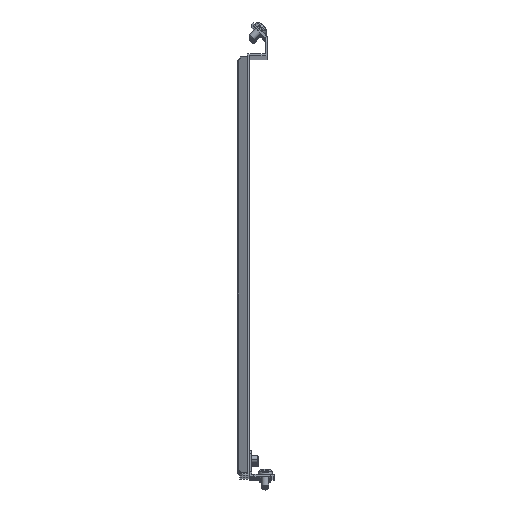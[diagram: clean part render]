
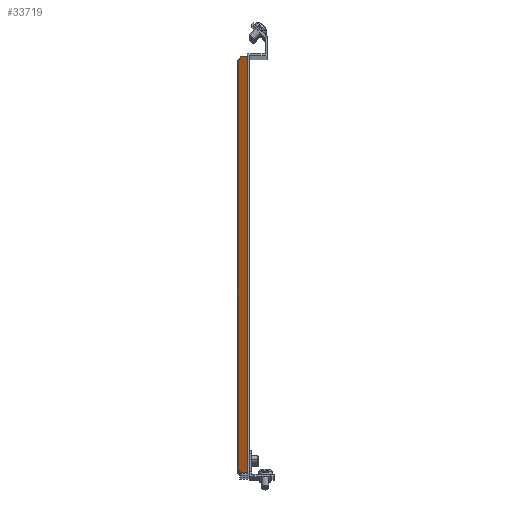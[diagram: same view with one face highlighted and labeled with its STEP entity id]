
A CAD part, top view. The second image highlights one B-rep face of the part: STEP entity #33719.
In plain terms, the highlighted planar face has unit normal (-0.5, 0, 0.866).
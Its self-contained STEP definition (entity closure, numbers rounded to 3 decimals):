
#568 = LINE ( 'NONE', #30996, #32546 ) ;
#857 = DIRECTION ( 'NONE',  ( 0.866, 0., 0.5 ) ) ;
#1041 = LINE ( 'NONE', #17717, #27174 ) ;
#2309 = VECTOR ( 'NONE', #19861, 1000. ) ;
#2643 = VECTOR ( 'NONE', #10023, 1000. ) ;
#3275 = CARTESIAN_POINT ( 'NONE',  ( -5.413, -75.143, 960.089 ) ) ;
#4251 = CARTESIAN_POINT ( 'NONE',  ( -2.25, -75.143, 961.915 ) ) ;
#4524 = VECTOR ( 'NONE', #29589, 1000. ) ;
#4561 = DIRECTION ( 'NONE',  ( 0., 1., 0. ) ) ;
#4727 = ORIENTED_EDGE ( 'NONE', *, *, #7832, .T. ) ;
#5438 = VERTEX_POINT ( 'NONE', #4251 ) ;
#6523 = ORIENTED_EDGE ( 'NONE', *, *, #18608, .F. ) ;
#6964 = VERTEX_POINT ( 'NONE', #14766 ) ;
#7454 = EDGE_LOOP ( 'NONE', ( #4727, #31752, #6523, #31713, #20801, #25841, #13356, #23408 ) ) ;
#7832 = EDGE_CURVE ( 'NONE', #5438, #12048, #11760, .T. ) ;
#8459 = LINE ( 'NONE', #11534, #2309 ) ;
#9531 = DIRECTION ( 'NONE',  ( 0., -1., 0. ) ) ;
#10023 = DIRECTION ( 'NONE',  ( -0.866, 0., -0.5 ) ) ;
#10856 = VERTEX_POINT ( 'NONE', #33423 ) ;
#11069 = CARTESIAN_POINT ( 'NONE',  ( -8.011, 269.647, 958.589 ) ) ;
#11534 = CARTESIAN_POINT ( 'NONE',  ( -0.75, 272.647, 962.781 ) ) ;
#11760 = LINE ( 'NONE', #17180, #24729 ) ;
#11858 = CARTESIAN_POINT ( 'NONE',  ( -5.413, 272.647, 960.089 ) ) ;
#12048 = VERTEX_POINT ( 'NONE', #18485 ) ;
#13356 = ORIENTED_EDGE ( 'NONE', *, *, #25848, .T. ) ;
#14766 = CARTESIAN_POINT ( 'NONE',  ( 0.232, 272.647, 963.348 ) ) ;
#15172 = DIRECTION ( 'NONE',  ( -0.612, -0.707, -0.354 ) ) ;
#16153 = CARTESIAN_POINT ( 'NONE',  ( 0.232, 100., 963.348 ) ) ;
#16450 = EDGE_CURVE ( 'NONE', #5438, #22031, #21433, .T. ) ;
#17180 = CARTESIAN_POINT ( 'NONE',  ( -2.25, -75.143, 961.915 ) ) ;
#17276 = AXIS2_PLACEMENT_3D ( 'NONE', #25829, #34328, #9531 ) ;
#17678 = FACE_OUTER_BOUND ( 'NONE', #7454, .T. ) ;
#17717 = CARTESIAN_POINT ( 'NONE',  ( -8.011, 269.647, 958.589 ) ) ;
#18485 = CARTESIAN_POINT ( 'NONE',  ( 0.232, -75.143, 963.348 ) ) ;
#18557 = LINE ( 'NONE', #27241, #4524 ) ;
#18608 = EDGE_CURVE ( 'NONE', #24772, #6964, #18557, .T. ) ;
#18882 = LINE ( 'NONE', #16153, #19010 ) ;
#19010 = VECTOR ( 'NONE', #4561, 1000. ) ;
#19621 = EDGE_CURVE ( 'NONE', #35356, #24772, #8459, .T. ) ;
#19861 = DIRECTION ( 'NONE',  ( 0.866, 0., 0.5 ) ) ;
#20801 = ORIENTED_EDGE ( 'NONE', *, *, #33191, .T. ) ;
#21433 = LINE ( 'NONE', #24503, #2643 ) ;
#22031 = VERTEX_POINT ( 'NONE', #3275 ) ;
#22129 = EDGE_CURVE ( 'NONE', #10856, #29636, #568, .T. ) ;
#22319 = VECTOR ( 'NONE', #29614, 1000. ) ;
#23408 = ORIENTED_EDGE ( 'NONE', *, *, #16450, .F. ) ;
#24503 = CARTESIAN_POINT ( 'NONE',  ( -8.011, -75.143, 958.589 ) ) ;
#24729 = VECTOR ( 'NONE', #857, 1000. ) ;
#24772 = VERTEX_POINT ( 'NONE', #32307 ) ;
#25829 = CARTESIAN_POINT ( 'NONE',  ( -207.514, 100., 843.406 ) ) ;
#25841 = ORIENTED_EDGE ( 'NONE', *, *, #22129, .F. ) ;
#25848 = EDGE_CURVE ( 'NONE', #10856, #22031, #32150, .T. ) ;
#27174 = VECTOR ( 'NONE', #15172, 1000. ) ;
#27241 = CARTESIAN_POINT ( 'NONE',  ( -207.514, 272.647, 843.406 ) ) ;
#29589 = DIRECTION ( 'NONE',  ( 0.866, 0., 0.5 ) ) ;
#29614 = DIRECTION ( 'NONE',  ( 0.612, -0.707, 0.354 ) ) ;
#29636 = VERTEX_POINT ( 'NONE', #11069 ) ;
#30996 = CARTESIAN_POINT ( 'NONE',  ( -8.011, 272.647, 958.589 ) ) ;
#31713 = ORIENTED_EDGE ( 'NONE', *, *, #19621, .F. ) ;
#31752 = ORIENTED_EDGE ( 'NONE', *, *, #32343, .T. ) ;
#32150 = LINE ( 'NONE', #35063, #22319 ) ;
#32307 = CARTESIAN_POINT ( 'NONE',  ( -2.25, 272.647, 961.915 ) ) ;
#32343 = EDGE_CURVE ( 'NONE', #12048, #6964, #18882, .T. ) ;
#32546 = VECTOR ( 'NONE', #34072, 1000. ) ;
#33191 = EDGE_CURVE ( 'NONE', #35356, #29636, #1041, .T. ) ;
#33423 = CARTESIAN_POINT ( 'NONE',  ( -8.011, -72.143, 958.589 ) ) ;
#33719 = ADVANCED_FACE ( 'NONE', ( #17678 ), #33972, .F. ) ;
#33972 = PLANE ( 'NONE',  #17276 ) ;
#34072 = DIRECTION ( 'NONE',  ( 0., 1., 0. ) ) ;
#34328 = DIRECTION ( 'NONE',  ( 0.5, 0., -0.866 ) ) ;
#35063 = CARTESIAN_POINT ( 'NONE',  ( -5.413, -75.143, 960.089 ) ) ;
#35356 = VERTEX_POINT ( 'NONE', #11858 ) ;
